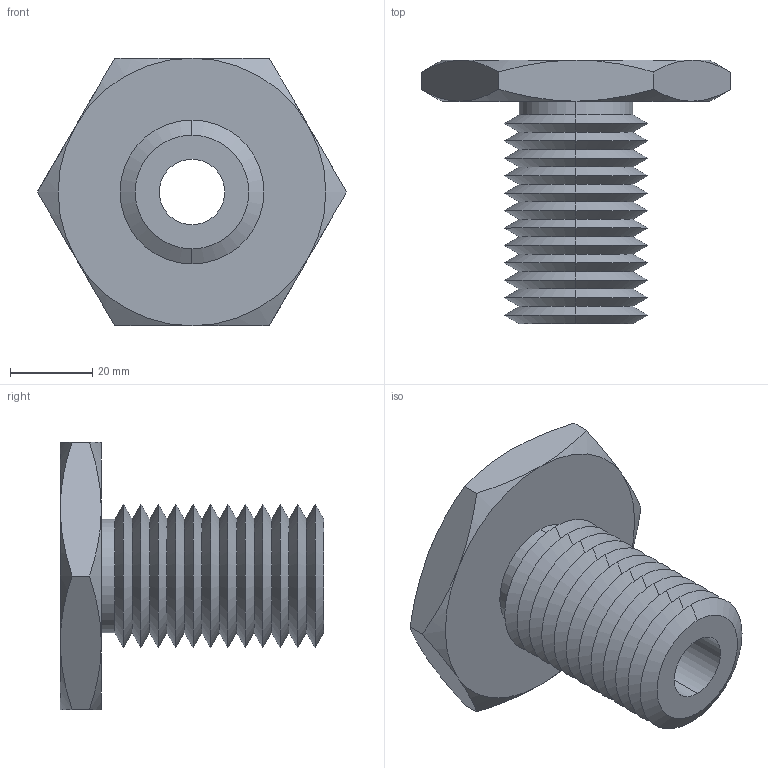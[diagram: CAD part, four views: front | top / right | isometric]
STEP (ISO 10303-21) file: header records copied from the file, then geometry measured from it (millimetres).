
FILE_DESCRIPTION (( 'STEP AP203' ), '1' );
FILE_NAME ('63302.W5138_0,62 UNC-11.step', '2013-12-08T11:43:38', ( 'User' ), ( '' ), 'SwSTEP 2.0', 'SolidWorks 2009', '' );
FILE_SCHEMA (( 'CONFIG_CONTROL_DESIGN' ));
Length unit declared in the file: millimetre
Products named in the file (1): 63302.W5138_0,62 UNC-11
Bounding box: 75.06 x 64 x 65 mm (x, y, z)
Volume: 64262.8 mm3; surface area: 22215.8 mm2
Topology: 1 solids, 1 shells, 75 faces, 154 edges, 82 vertices
Faces by surface type: cone 62, plane 9, cylinder 4
Entity records: 2139 total; most frequent: CARTESIAN_POINT 496, DIRECTION 352, ORIENTED_EDGE 308, EDGE_CURVE 154, AXIS2_PLACEMENT_3D 146, VERTEX_POINT 82, EDGE_LOOP 78, ADVANCED_FACE 75
